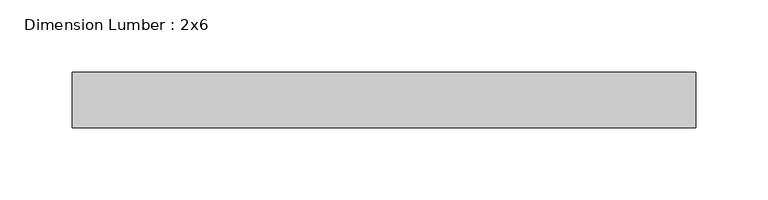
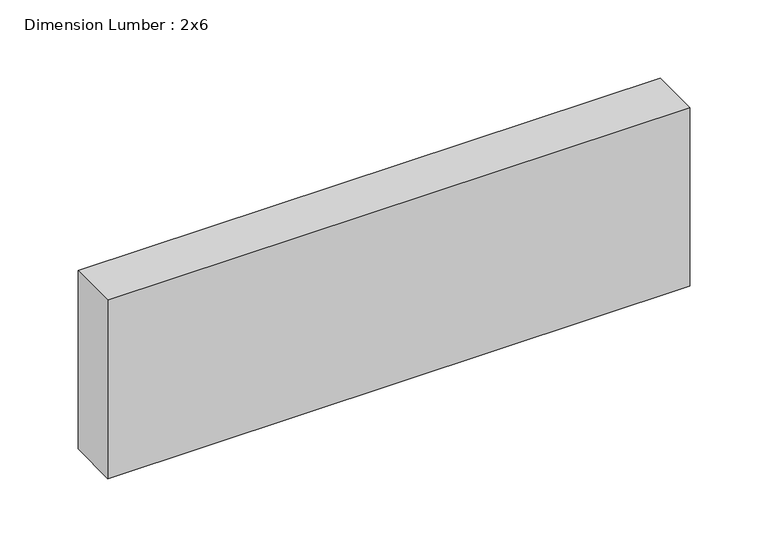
"""IFC4 building model written with IfcOpenShell, lengths in millimetres: beam geometry, Dimension Lumber : 2x6."""

from ifc_helpers import new_model, si_unit, frame, origin, place, context, project, spatial, polyline, outline, extrude, source, transform, mapped, element, save


def dimension_lumber_2x6_1b54fe5d(model_context):
    return source(origin(), model_context, "Body", "SweptSolid", [
        extrude(outline(polyline([(215.3137095, 19.05), (215.3137095, -19.05), (-215.3137095, -19.05), (-215.3137095, 19.05), (215.3137095, 19.05)])), frame((0.0, 0.0, -69.85), z_axis=(0.0, 0.0, 1.0), x_axis=(1.0, 0.0, 0.0)), (0.0, 0.0, 1.0), 139.7),
    ])


if __name__ == "__main__":
    model = new_model("IFC4")
    model_context = context("Model", 3, world=origin())
    ifc_project = project(units=[si_unit("LENGTHUNIT", "METRE", prefix="MILLI")], contexts=[model_context])
    site = spatial("IfcSite", under=ifc_project)
    building = spatial("IfcBuilding", under=site)
    placement = place(None, origin())
    dimension_lumber_2x6_shape = dimension_lumber_2x6_1b54fe5d(model_context)
    element("IfcBeam", 1, ObjectType="Dimension Lumber : 2x6", at=placement, inside=building, context=model_context, shape_type="MappedRepresentation", body=[
        mapped(dimension_lumber_2x6_shape, transform((0.0, 0.0, 0.0), x_axis=(1.0, 0.0, 0.0), y_axis=(0.0, 1.0, 0.0), z_axis=(0.0, 0.0, 1.0))),
    ])
    save(model, "model.ifc")
